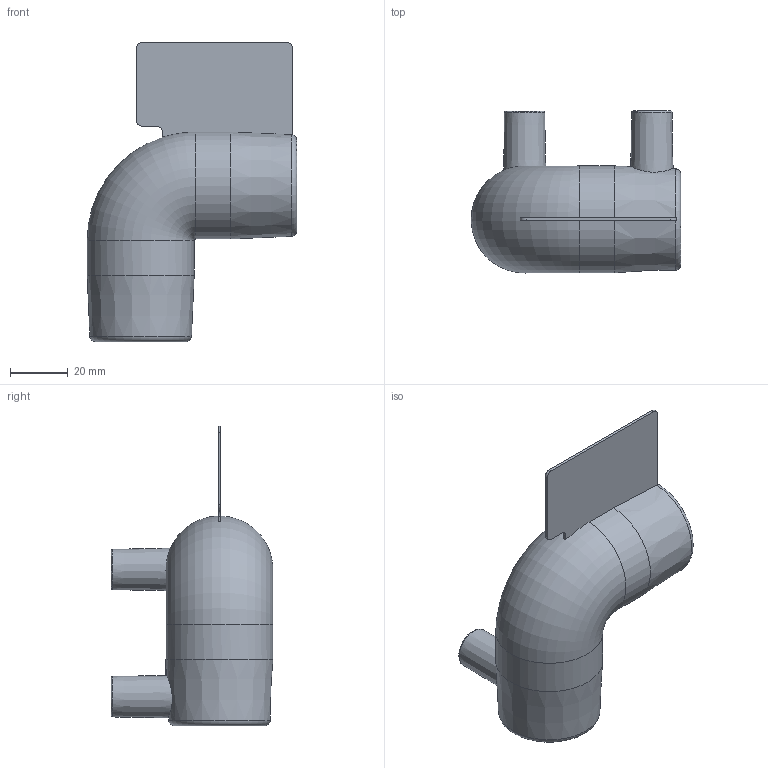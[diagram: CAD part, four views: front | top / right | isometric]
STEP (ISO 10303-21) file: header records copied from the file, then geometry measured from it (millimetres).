
FILE_DESCRIPTION(/* description */ ('Unknown'),/* implementation_level */ '2;1');
FILE_NAME(/* name */ 'GE9P025C.P',/* time_stamp */ '2021-11-08T16:10:28+01:00',/* author */ ('Unknown'),/* organization */ ('Unknown'),/* preprocessor_version */ 'ST-DEVELOPER v16.7',/* originating_system */ 'Solid Edge',/* authorisation */ 'Unknown');
FILE_SCHEMA (('AUTOMOTIVE_DESIGN {1 0 10303 214 3 1 1}'));
Length unit declared in the file: millimetre
Products named in the file (1): GE9P025C.P
Bounding box: 72.49 x 56 x 103.5 mm (x, y, z)
Volume: 66389.2 mm3; surface area: 26285.8 mm2
Topology: 1 solids, 1 shells, 46 faces, 109 edges, 72 vertices
Faces by surface type: plane 21, cylinder 15, torus 6, cone 4
Full cylindrical faces by diameter (mm): 4 x2, 10 x2, 25 x2, 37 x1
Entity records: 1299 total; most frequent: CARTESIAN_POINT 306, DIRECTION 204, ORIENTED_EDGE 172, AXIS2_PLACEMENT_3D 89, EDGE_CURVE 86, EDGE_LOOP 70, FACE_BOUND 70, VERTEX_POINT 64
